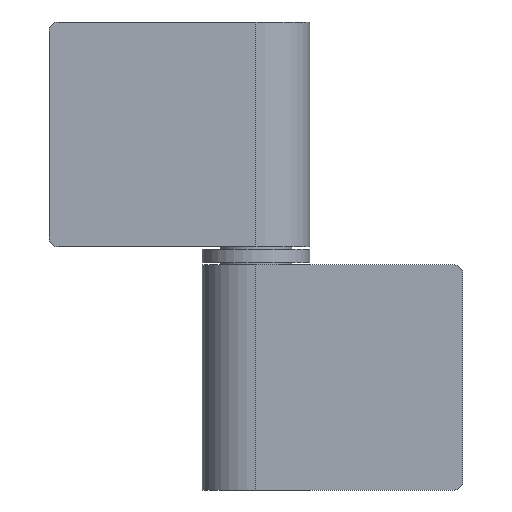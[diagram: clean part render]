
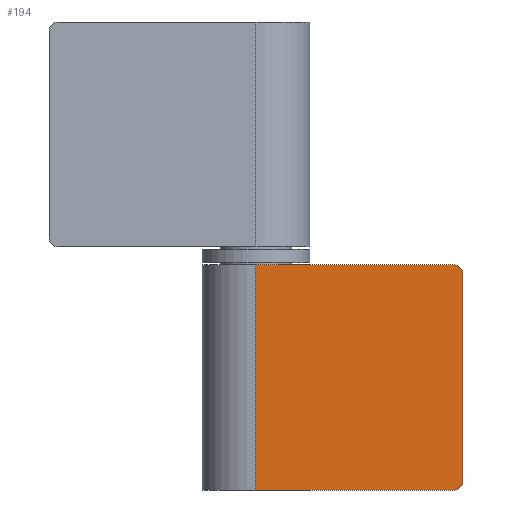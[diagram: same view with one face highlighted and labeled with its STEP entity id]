
A CAD part, front view. The second image highlights one B-rep face of the part: STEP entity #194.
In plain terms, the highlighted planar face has unit normal (0, -1, 0).
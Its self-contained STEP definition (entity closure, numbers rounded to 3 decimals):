
#11 = LINE ( 'NONE', #76, #20 ) ;
#20 = VECTOR ( 'NONE', #861, 1000. ) ;
#23 = VERTEX_POINT ( 'NONE', #125 ) ;
#37 = EDGE_CURVE ( 'NONE', #940, #461, #384, .T. ) ;
#76 = CARTESIAN_POINT ( 'NONE',  ( 0., -6., 25. ) ) ;
#122 = CARTESIAN_POINT ( 'NONE',  ( 23., -6., 25. ) ) ;
#125 = CARTESIAN_POINT ( 'NONE',  ( 22., -6., 25. ) ) ;
#142 = LINE ( 'NONE', #122, #155 ) ;
#155 = VECTOR ( 'NONE', #530, 1000. ) ;
#172 = DIRECTION ( 'NONE',  ( -1., 0., 0. ) ) ;
#173 = DIRECTION ( 'NONE',  ( 0., -1., 0. ) ) ;
#176 = CARTESIAN_POINT ( 'NONE',  ( 22., -6., 1. ) ) ;
#177 = CARTESIAN_POINT ( 'NONE',  ( 0., -6., 25. ) ) ;
#189 = PLANE ( 'NONE',  #523 ) ;
#194 = ADVANCED_FACE ( 'NONE', ( #903 ), #189, .F. ) ;
#198 = DIRECTION ( 'NONE',  ( -1., 0., 0. ) ) ;
#306 = ORIENTED_EDGE ( 'NONE', *, *, #772, .T. ) ;
#345 = VERTEX_POINT ( 'NONE', #733 ) ;
#384 = CIRCLE ( 'NONE', #920, 1. ) ;
#405 = CARTESIAN_POINT ( 'NONE',  ( 0., -6., 0. ) ) ;
#449 = DIRECTION ( 'NONE',  ( 0., 1., 0. ) ) ;
#461 = VERTEX_POINT ( 'NONE', #852 ) ;
#480 = ORIENTED_EDGE ( 'NONE', *, *, #891, .T. ) ;
#485 = EDGE_CURVE ( 'NONE', #345, #23, #11, .T. ) ;
#501 = CARTESIAN_POINT ( 'NONE',  ( 0., -6., 25. ) ) ;
#512 = LINE ( 'NONE', #405, #572 ) ;
#523 = AXIS2_PLACEMENT_3D ( 'NONE', #177, #449, #198 ) ;
#530 = DIRECTION ( 'NONE',  ( 0., 0., -1. ) ) ;
#545 = EDGE_LOOP ( 'NONE', ( #732, #757, #844, #306, #926, #480 ) ) ;
#572 = VECTOR ( 'NONE', #919, 1000. ) ;
#614 = EDGE_CURVE ( 'NONE', #918, #461, #142, .T. ) ;
#637 = CARTESIAN_POINT ( 'NONE',  ( 22., -6., 0. ) ) ;
#697 = CARTESIAN_POINT ( 'NONE',  ( 23., -6., 24. ) ) ;
#723 = CARTESIAN_POINT ( 'NONE',  ( 22., -6., 24. ) ) ;
#725 = DIRECTION ( 'NONE',  ( 0., 0., -1. ) ) ;
#732 = ORIENTED_EDGE ( 'NONE', *, *, #910, .T. ) ;
#733 = CARTESIAN_POINT ( 'NONE',  ( 0., -6., 25. ) ) ;
#751 = DIRECTION ( 'NONE',  ( 0., -1., 0. ) ) ;
#757 = ORIENTED_EDGE ( 'NONE', *, *, #37, .T. ) ;
#772 = EDGE_CURVE ( 'NONE', #918, #23, #965, .T. ) ;
#789 = LINE ( 'NONE', #501, #909 ) ;
#844 = ORIENTED_EDGE ( 'NONE', *, *, #614, .F. ) ;
#852 = CARTESIAN_POINT ( 'NONE',  ( 23., -6., 1. ) ) ;
#853 = VERTEX_POINT ( 'NONE', #964 ) ;
#861 = DIRECTION ( 'NONE',  ( 1., 0., 0. ) ) ;
#866 = DIRECTION ( 'NONE',  ( -1., 0., 0. ) ) ;
#889 = AXIS2_PLACEMENT_3D ( 'NONE', #723, #751, #866 ) ;
#891 = EDGE_CURVE ( 'NONE', #345, #853, #789, .T. ) ;
#903 = FACE_OUTER_BOUND ( 'NONE', #545, .T. ) ;
#909 = VECTOR ( 'NONE', #725, 1000. ) ;
#910 = EDGE_CURVE ( 'NONE', #853, #940, #512, .T. ) ;
#918 = VERTEX_POINT ( 'NONE', #697 ) ;
#919 = DIRECTION ( 'NONE',  ( 1., 0., 0. ) ) ;
#920 = AXIS2_PLACEMENT_3D ( 'NONE', #176, #173, #172 ) ;
#926 = ORIENTED_EDGE ( 'NONE', *, *, #485, .F. ) ;
#940 = VERTEX_POINT ( 'NONE', #637 ) ;
#964 = CARTESIAN_POINT ( 'NONE',  ( 0., -6., 0. ) ) ;
#965 = CIRCLE ( 'NONE', #889, 1. ) ;
